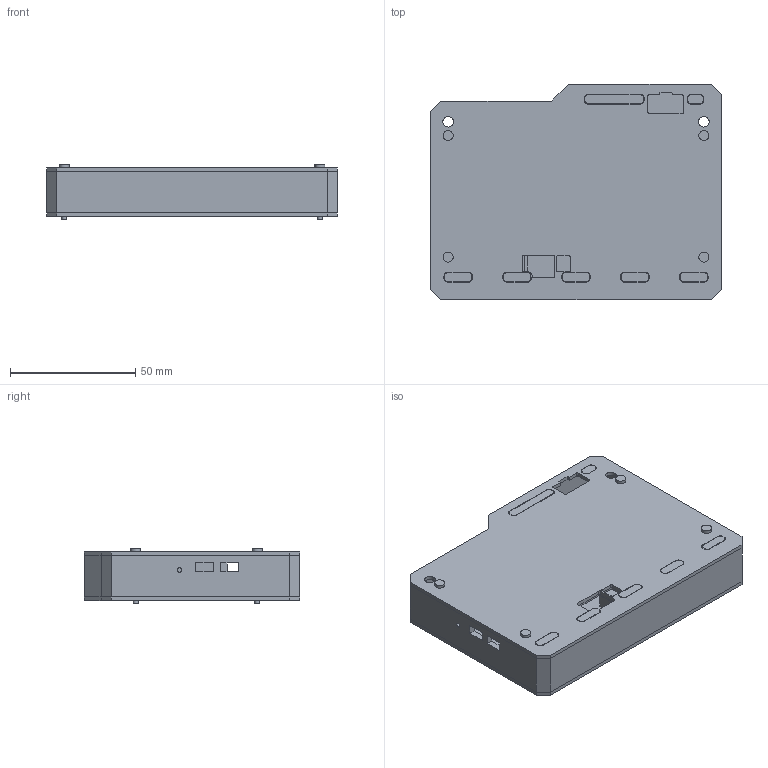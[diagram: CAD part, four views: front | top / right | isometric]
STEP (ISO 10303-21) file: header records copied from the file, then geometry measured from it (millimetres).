
FILE_DESCRIPTION(('Open CASCADE Model'),'2;1');
FILE_NAME('Layered clear enclosure','2026-11-11T17:11:01',('Author'),( 'Open CASCADE'),'Open CASCADE STEP processor 7.8','build123d', 'Unknown');
FILE_SCHEMA(('AUTOMOTIVE_DESIGN { 1 0 10303 214 1 1 1 1 }'));
Length unit declared in the file: millimetre
Products named in the file (25): Layered clear enclosure; Display support H1; Display support H2; Display support H3; Display support H4; Affinity diffuser 1; Affinity diffuser 2; Affinity diffuser 3; Affinity diffuser 4; Affinity diffuser 5; Role diffuser, long; Role diffuser, short; Sensor light barrier; Stepped perimeter frame; Clear front plate; SOLID; Clear rear plate; Battery locating rails; M2 fastener H1; M2 fastener H2; M2 fastener H3; M2 fastener H4
Assembly tree (24 placements, depth 3):
  Layered clear enclosure
    Display support H1
    Display support H2
    Display support H3
    Display support H4
    Affinity diffuser 1
    Affinity diffuser 2
    Affinity diffuser 3
    Affinity diffuser 4
    Affinity diffuser 5
    Role diffuser, long
    Role diffuser, short
    Sensor light barrier
    Stepped perimeter frame
    Clear front plate
      SOLID
    Clear rear plate
      SOLID
    Battery locating rails
      SOLID
      SOLID
    M2 fastener H1
    M2 fastener H2
    M2 fastener H3
    M2 fastener H4
Bounding box: 116 x 86 x 21.7 mm (x, y, z)
Volume: 44619 mm3; surface area: 57510.4 mm2
Topology: 21 solids, 21 shells, 429 faces, 1122 edges, 748 vertices
Faces by surface type: plane 279, cylinder 150
Full cylindrical faces by diameter (mm): 1.8 x1, 2 x4, 2.4 x16, 4 x4, 4.2 x4, 4.5 x4
Entity records: 28451 total; most frequent: CARTESIAN_POINT 5444, DIRECTION 4170, LINE 2418, VECTOR 2418, ORIENTED_EDGE 2244, PCURVE 2244, DEFINITIONAL_REPRESENTATION 2244, EDGE_CURVE 1122
